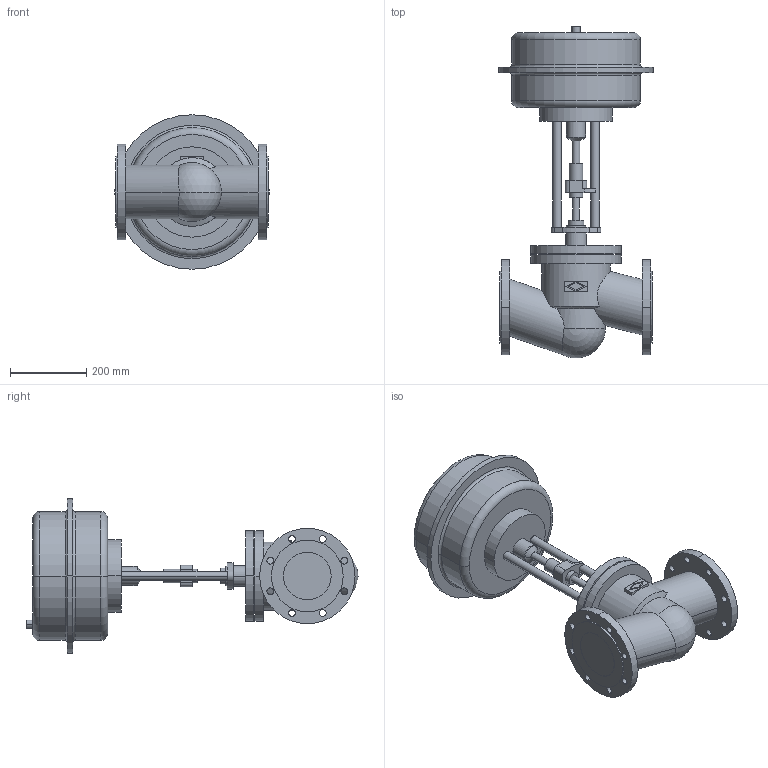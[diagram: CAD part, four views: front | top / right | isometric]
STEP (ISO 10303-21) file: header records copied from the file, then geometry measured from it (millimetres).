
FILE_DESCRIPTION(('OneSpaceDesigner STEP Export'),'2;1');
FILE_NAME('c000003113.stp','2007-01-16T10:27:53',(''),(''),'OneSpace Designer STEP processor for AP214 (Solid Model)','OneSpace Designer 14.00B 27-May-2006 (C) CoCreate Software GmbH','');
FILE_SCHEMA(('AUTOMOTIVE_DESIGN { 1 0 10303 214 1 1 1 1 }'));
Length unit declared in the file: millimetre
Products named in the file (2): 1; 2
Bounding box: 405 x 870.9 x 405 mm (x, y, z)
Volume: 32325795.3 mm3; surface area: 1118618.8 mm2
Topology: 2 solids, 2 shells, 172 faces, 413 edges, 270 vertices
Faces by surface type: cylinder 96, plane 60, torus 10, cone 4, sphere 2
Entity records: 4730 total; most frequent: CARTESIAN_POINT 1015, ORIENTED_EDGE 822, DIRECTION 669, EDGE_CURVE 411, VERTEX_POINT 270, AXIS2_PLACEMENT_3D 245, EDGE_LOOP 231, VECTOR 179
